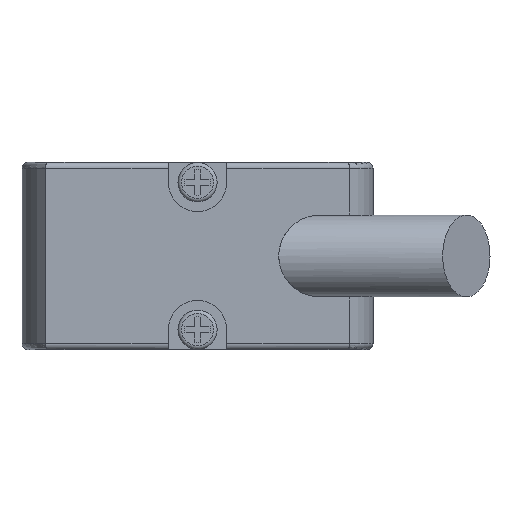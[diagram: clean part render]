
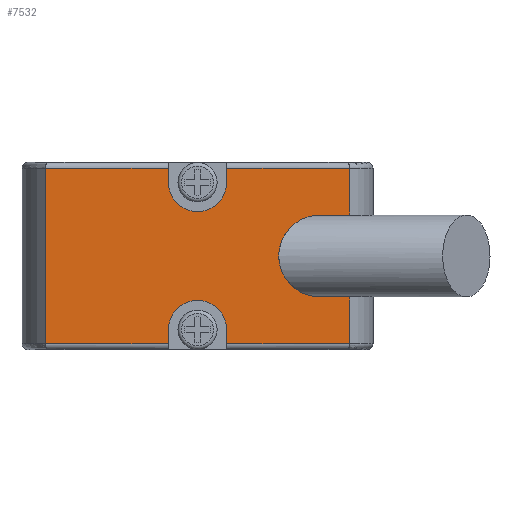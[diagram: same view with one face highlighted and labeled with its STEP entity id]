
A CAD part, front view. The second image highlights one B-rep face of the part: STEP entity #7532.
In plain terms, the highlighted planar face has unit normal (0, -1, 0).
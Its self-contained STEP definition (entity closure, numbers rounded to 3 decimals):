
#7376=CARTESIAN_POINT('',(13.,0.,-3.5));
#7377=VERTEX_POINT('',#7376);
#7385=CARTESIAN_POINT('',(13.,0.,-7.5));
#7386=VERTEX_POINT('',#7385);
#7387=CARTESIAN_POINT('',(13.,0.,-3.5));
#7388=DIRECTION('',(0.0,0.0,-1.0));
#7389=VECTOR('',#7388,4.);
#7390=LINE('',#7387,#7389);
#7391=EDGE_CURVE('',#7377,#7386,#7390,.T.);
#7403=CARTESIAN_POINT('',(13.,0.0,8.0));
#7404=DIRECTION('',(0.0,1.0,0.0));
#7405=DIRECTION('',(0.0,0.0,1.0));
#7406=AXIS2_PLACEMENT_3D('',#7403,#7404,#7405);
#7407=PLANE('',#7406);
#7408=CARTESIAN_POINT('',(10.5,0.,3.5));
#7409=VERTEX_POINT('',#7408);
#7410=CARTESIAN_POINT('',(13.,0.,3.5));
#7411=VERTEX_POINT('',#7410);
#7412=CARTESIAN_POINT('',(10.5,0.,3.5));
#7413=DIRECTION('',(1.0,0.0,0.0));
#7414=VECTOR('',#7413,2.5);
#7415=LINE('',#7412,#7414);
#7416=EDGE_CURVE('',#7409,#7411,#7415,.T.);
#7417=ORIENTED_EDGE('',*,*,#7416,.T.);
#7418=CARTESIAN_POINT('',(13.,0.,7.5));
#7419=VERTEX_POINT('',#7418);
#7420=CARTESIAN_POINT('',(13.,0.,7.5));
#7421=DIRECTION('',(0.0,0.0,-1.0));
#7422=VECTOR('',#7421,4.);
#7423=LINE('',#7420,#7422);
#7424=EDGE_CURVE('',#7419,#7411,#7423,.T.);
#7425=ORIENTED_EDGE('',*,*,#7424,.F.);
#7426=CARTESIAN_POINT('',(2.5,0.,7.5));
#7427=VERTEX_POINT('',#7426);
#7428=CARTESIAN_POINT('',(13.,0.,7.5));
#7429=DIRECTION('',(-1.0,0.0,0.0));
#7430=VECTOR('',#7429,10.5);
#7431=LINE('',#7428,#7430);
#7432=EDGE_CURVE('',#7419,#7427,#7431,.T.);
#7433=ORIENTED_EDGE('',*,*,#7432,.T.);
#7434=CARTESIAN_POINT('',(2.5,0.,6.3));
#7435=VERTEX_POINT('',#7434);
#7436=CARTESIAN_POINT('',(2.5,0.,6.3));
#7437=DIRECTION('',(0.0,0.0,1.0));
#7438=VECTOR('',#7437,1.2);
#7439=LINE('',#7436,#7438);
#7440=EDGE_CURVE('',#7435,#7427,#7439,.T.);
#7441=ORIENTED_EDGE('',*,*,#7440,.F.);
#7442=CARTESIAN_POINT('',(-2.5,0.,6.3));
#7443=VERTEX_POINT('',#7442);
#7444=CARTESIAN_POINT('',(0.0,0.0,6.3));
#7445=DIRECTION('',(0.0,-1.0,0.0));
#7446=DIRECTION('',(1.0,0.0,0.0));
#7447=AXIS2_PLACEMENT_3D('',#7444,#7445,#7446);
#7448=CIRCLE('',#7447,2.5);
#7449=EDGE_CURVE('',#7443,#7435,#7448,.T.);
#7450=ORIENTED_EDGE('',*,*,#7449,.F.);
#7451=CARTESIAN_POINT('',(-2.5,0.,7.5));
#7452=VERTEX_POINT('',#7451);
#7453=CARTESIAN_POINT('',(-2.5,0.,7.5));
#7454=DIRECTION('',(0.0,0.0,-1.0));
#7455=VECTOR('',#7454,1.2);
#7456=LINE('',#7453,#7455);
#7457=EDGE_CURVE('',#7452,#7443,#7456,.T.);
#7458=ORIENTED_EDGE('',*,*,#7457,.F.);
#7459=CARTESIAN_POINT('',(-13.,0.,7.5));
#7460=VERTEX_POINT('',#7459);
#7461=CARTESIAN_POINT('',(-2.5,0.,7.5));
#7462=DIRECTION('',(-1.0,0.0,0.0));
#7463=VECTOR('',#7462,10.5);
#7464=LINE('',#7461,#7463);
#7465=EDGE_CURVE('',#7452,#7460,#7464,.T.);
#7466=ORIENTED_EDGE('',*,*,#7465,.T.);
#7467=CARTESIAN_POINT('',(-13.,0.,-7.5));
#7468=VERTEX_POINT('',#7467);
#7469=CARTESIAN_POINT('',(-13.,0.,7.5));
#7470=DIRECTION('',(0.0,0.0,-1.0));
#7471=VECTOR('',#7470,15.0);
#7472=LINE('',#7469,#7471);
#7473=EDGE_CURVE('',#7460,#7468,#7472,.T.);
#7474=ORIENTED_EDGE('',*,*,#7473,.T.);
#7475=CARTESIAN_POINT('',(-2.5,0.,-7.5));
#7476=VERTEX_POINT('',#7475);
#7477=CARTESIAN_POINT('',(-13.,0.0,-7.5));
#7478=DIRECTION('',(1.0,0.0,0.0));
#7479=VECTOR('',#7478,10.5);
#7480=LINE('',#7477,#7479);
#7481=EDGE_CURVE('',#7468,#7476,#7480,.T.);
#7482=ORIENTED_EDGE('',*,*,#7481,.T.);
#7483=CARTESIAN_POINT('',(-2.5,0.,-6.3));
#7484=VERTEX_POINT('',#7483);
#7485=CARTESIAN_POINT('',(-2.5,0.,-7.5));
#7486=DIRECTION('',(0.0,0.0,1.0));
#7487=VECTOR('',#7486,1.2);
#7488=LINE('',#7485,#7487);
#7489=EDGE_CURVE('',#7476,#7484,#7488,.T.);
#7490=ORIENTED_EDGE('',*,*,#7489,.T.);
#7491=CARTESIAN_POINT('',(2.5,0.,-6.3));
#7492=VERTEX_POINT('',#7491);
#7493=CARTESIAN_POINT('',(0.0,0.0,-6.3));
#7494=DIRECTION('',(0.0,1.0,0.0));
#7495=DIRECTION('',(1.0,0.0,0.0));
#7496=AXIS2_PLACEMENT_3D('',#7493,#7494,#7495);
#7497=CIRCLE('',#7496,2.5);
#7498=EDGE_CURVE('',#7484,#7492,#7497,.T.);
#7499=ORIENTED_EDGE('',*,*,#7498,.T.);
#7500=CARTESIAN_POINT('',(2.5,0.,-7.5));
#7501=VERTEX_POINT('',#7500);
#7502=CARTESIAN_POINT('',(2.5,0.,-6.3));
#7503=DIRECTION('',(0.0,0.0,-1.0));
#7504=VECTOR('',#7503,1.2);
#7505=LINE('',#7502,#7504);
#7506=EDGE_CURVE('',#7492,#7501,#7505,.T.);
#7507=ORIENTED_EDGE('',*,*,#7506,.T.);
#7508=CARTESIAN_POINT('',(2.5,0.0,-7.5));
#7509=DIRECTION('',(1.0,0.0,0.0));
#7510=VECTOR('',#7509,10.5);
#7511=LINE('',#7508,#7510);
#7512=EDGE_CURVE('',#7501,#7386,#7511,.T.);
#7513=ORIENTED_EDGE('',*,*,#7512,.T.);
#7514=ORIENTED_EDGE('',*,*,#7391,.F.);
#7515=CARTESIAN_POINT('',(10.5,0.,-3.5));
#7516=VERTEX_POINT('',#7515);
#7517=CARTESIAN_POINT('',(10.5,0.,-3.5));
#7518=DIRECTION('',(1.0,0.0,0.0));
#7519=VECTOR('',#7518,2.5);
#7520=LINE('',#7517,#7519);
#7521=EDGE_CURVE('',#7516,#7377,#7520,.T.);
#7522=ORIENTED_EDGE('',*,*,#7521,.F.);
#7523=CARTESIAN_POINT('',(10.45,0.,0.0));
#7524=DIRECTION('',(0.0,-1.0,0.0));
#7525=DIRECTION('',(1.0,0.0,0.0));
#7526=AXIS2_PLACEMENT_3D('',#7523,#7524,#7525);
#7527=CIRCLE('',#7526,3.5);
#7528=EDGE_CURVE('',#7409,#7516,#7527,.T.);
#7529=ORIENTED_EDGE('',*,*,#7528,.F.);
#7530=EDGE_LOOP('',(#7417,#7425,#7433,#7441,#7450,#7458,#7466,#7474,#7482,#7490,#7499,#7507,#7513,#7514,#7522,#7529));
#7531=FACE_OUTER_BOUND('',#7530,.T.);
#7532=ADVANCED_FACE('',(#7531),#7407,.F.);
